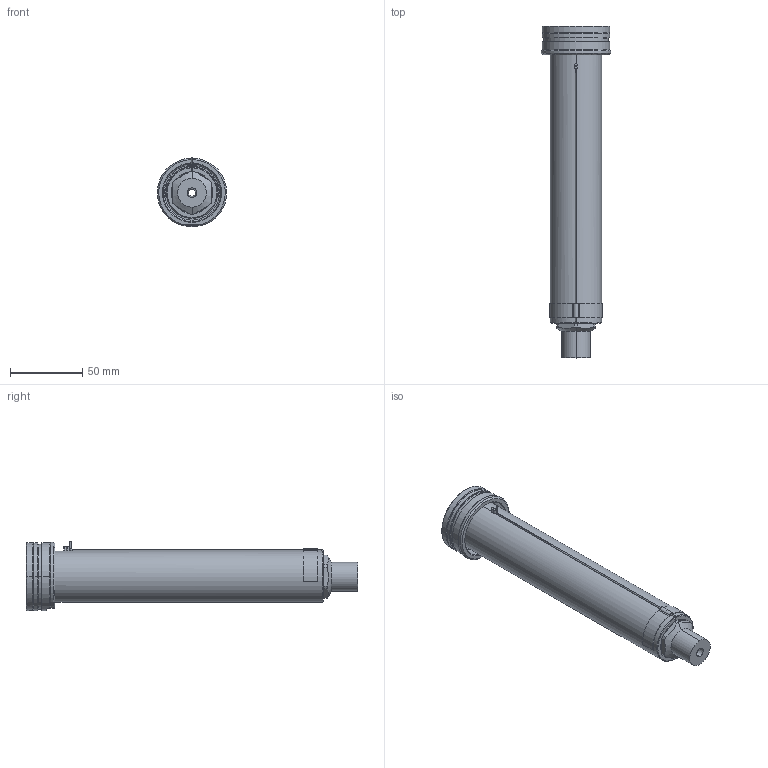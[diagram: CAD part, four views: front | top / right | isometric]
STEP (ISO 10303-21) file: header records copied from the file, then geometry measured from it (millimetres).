
FILE_DESCRIPTION((''),'2;1');
FILE_NAME('EO16_VG-FBE_STD_200_SW','2024-02-19T14:10:51',('sundharh'),(''),'CREO PARAMETRIC BY PTC INC, 2023154','CREO PARAMETRIC BY PTC INC, 2023154','');
FILE_SCHEMA(('CONFIG_CONTROL_DESIGN'));
Length unit declared in the file: millimetre
Products named in the file (1): EO16_VG-FBE_STD_200_SW
Bounding box: 47.97 x 230 x 48 mm (x, y, z)
Volume: 182279.5 mm3; surface area: 45252.2 mm2
Topology: 1 solids, 1 shells, 199 faces, 478 edges, 288 vertices
Faces by surface type: cylinder 72, plane 47, cone 41, torus 24, bspline 13, sphere 2
Entity records: 6718 total; most frequent: CARTESIAN_POINT 1996, DIRECTION 1064, ORIENTED_EDGE 944, EDGE_CURVE 472, AXIS2_PLACEMENT_3D 446, VERTEX_POINT 288, CIRCLE 260, EDGE_LOOP 216
